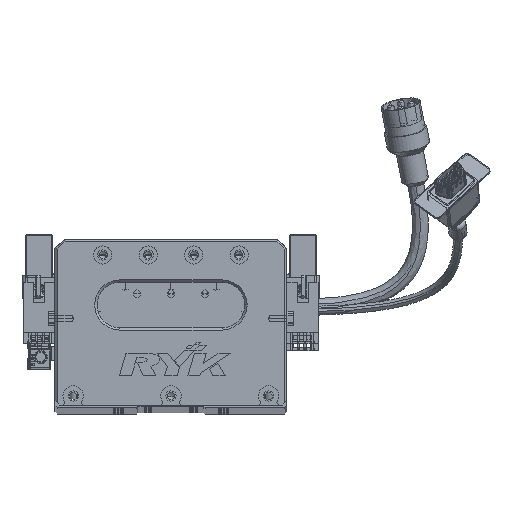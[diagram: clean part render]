
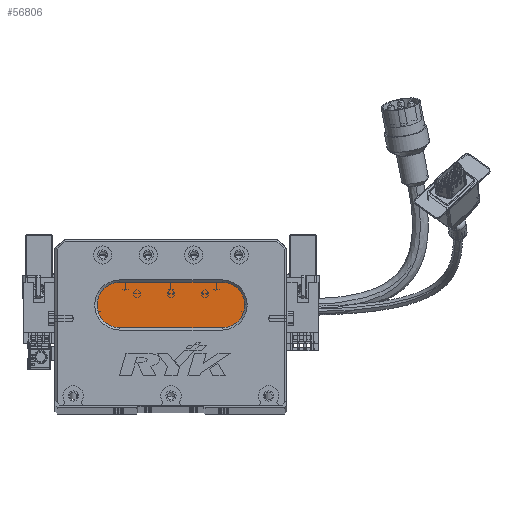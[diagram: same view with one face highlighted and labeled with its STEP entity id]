
A CAD part, top view. The second image highlights one B-rep face of the part: STEP entity #56806.
In plain terms, the highlighted planar face has unit normal (0, 0, 1) as drawn and (0, 0, -1) by its records, which use the part's own axes.
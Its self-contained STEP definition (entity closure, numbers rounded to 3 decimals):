
#2203 = VERTEX_POINT ( 'NONE', #37588 ) ;
#3137 = LINE ( 'NONE', #17178, #74173 ) ;
#5400 = VERTEX_POINT ( 'NONE', #17589 ) ;
#6393 = CARTESIAN_POINT ( 'NONE',  ( 73.5, 54., 13. ) ) ;
#8130 = ORIENTED_EDGE ( 'NONE', *, *, #53851, .T. ) ;
#9917 = CARTESIAN_POINT ( 'NONE',  ( 28.5, 54., 13. ) ) ;
#13693 = VERTEX_POINT ( 'NONE', #53377 ) ;
#13946 = ORIENTED_EDGE ( 'NONE', *, *, #23006, .T. ) ;
#17178 = CARTESIAN_POINT ( 'NONE',  ( 73.5, 34., 13. ) ) ;
#17589 = CARTESIAN_POINT ( 'NONE',  ( 73.5, 54., 13. ) ) ;
#17692 = DIRECTION ( 'NONE',  ( -1., 0., 0. ) ) ;
#18072 = PLANE ( 'NONE',  #32540 ) ;
#18393 = DIRECTION ( 'NONE',  ( 1., 0., 0. ) ) ;
#22680 = CIRCLE ( 'NONE', #29224, 10. ) ;
#23006 = EDGE_CURVE ( 'NONE', #27513, #13693, #50009, .T. ) ;
#23491 = FACE_OUTER_BOUND ( 'NONE', #65606, .T. ) ;
#23677 = DIRECTION ( 'NONE',  ( -1., 0., 0. ) ) ;
#23780 = EDGE_CURVE ( 'NONE', #2203, #27513, #3137, .T. ) ;
#24179 = CIRCLE ( 'NONE', #29737, 10. ) ;
#25308 = CARTESIAN_POINT ( 'NONE',  ( 28.5, 34., 13. ) ) ;
#27007 = AXIS2_PLACEMENT_3D ( 'NONE', #44956, #38420, #27135 ) ;
#27135 = DIRECTION ( 'NONE',  ( -1., 0., 0. ) ) ;
#27513 = VERTEX_POINT ( 'NONE', #25308 ) ;
#29224 = AXIS2_PLACEMENT_3D ( 'NONE', #45391, #39109, #75746 ) ;
#29737 = AXIS2_PLACEMENT_3D ( 'NONE', #35431, #30170, #23677 ) ;
#30170 = DIRECTION ( 'NONE',  ( 0., 0., -1. ) ) ;
#31910 = ORIENTED_EDGE ( 'NONE', *, *, #23780, .T. ) ;
#32540 = AXIS2_PLACEMENT_3D ( 'NONE', #71653, #48095, #48620 ) ;
#35431 = CARTESIAN_POINT ( 'NONE',  ( 73.5, 44., 13. ) ) ;
#37588 = CARTESIAN_POINT ( 'NONE',  ( 73.5, 34., 13. ) ) ;
#38420 = DIRECTION ( 'NONE',  ( 0., 0., -1. ) ) ;
#39109 = DIRECTION ( 'NONE',  ( 0., 0., -1. ) ) ;
#39807 = LINE ( 'NONE', #6393, #46334 ) ;
#44956 = CARTESIAN_POINT ( 'NONE',  ( 28.5, 44., 13. ) ) ;
#45391 = CARTESIAN_POINT ( 'NONE',  ( 28.5, 44., 13. ) ) ;
#46334 = VECTOR ( 'NONE', #18393, 1000. ) ;
#47795 = ORIENTED_EDGE ( 'NONE', *, *, #61613, .T. ) ;
#48095 = DIRECTION ( 'NONE',  ( 0., 0., -1. ) ) ;
#48620 = DIRECTION ( 'NONE',  ( -1., 0., 0. ) ) ;
#50009 = CIRCLE ( 'NONE', #27007, 10. ) ;
#53377 = CARTESIAN_POINT ( 'NONE',  ( 18.5, 44., 13. ) ) ;
#53851 = EDGE_CURVE ( 'NONE', #13693, #53918, #22680, .T. ) ;
#53918 = VERTEX_POINT ( 'NONE', #9917 ) ;
#56806 = ADVANCED_FACE ( 'NONE', ( #23491 ), #18072, .T. ) ;
#61613 = EDGE_CURVE ( 'NONE', #5400, #2203, #24179, .T. ) ;
#65606 = EDGE_LOOP ( 'NONE', ( #47795, #31910, #13946, #8130, #71802 ) ) ;
#71653 = CARTESIAN_POINT ( 'NONE',  ( 73.5, 44., 13. ) ) ;
#71802 = ORIENTED_EDGE ( 'NONE', *, *, #76845, .T. ) ;
#74173 = VECTOR ( 'NONE', #17692, 1000. ) ;
#75746 = DIRECTION ( 'NONE',  ( -1., 0., 0. ) ) ;
#76845 = EDGE_CURVE ( 'NONE', #53918, #5400, #39807, .T. ) ;
